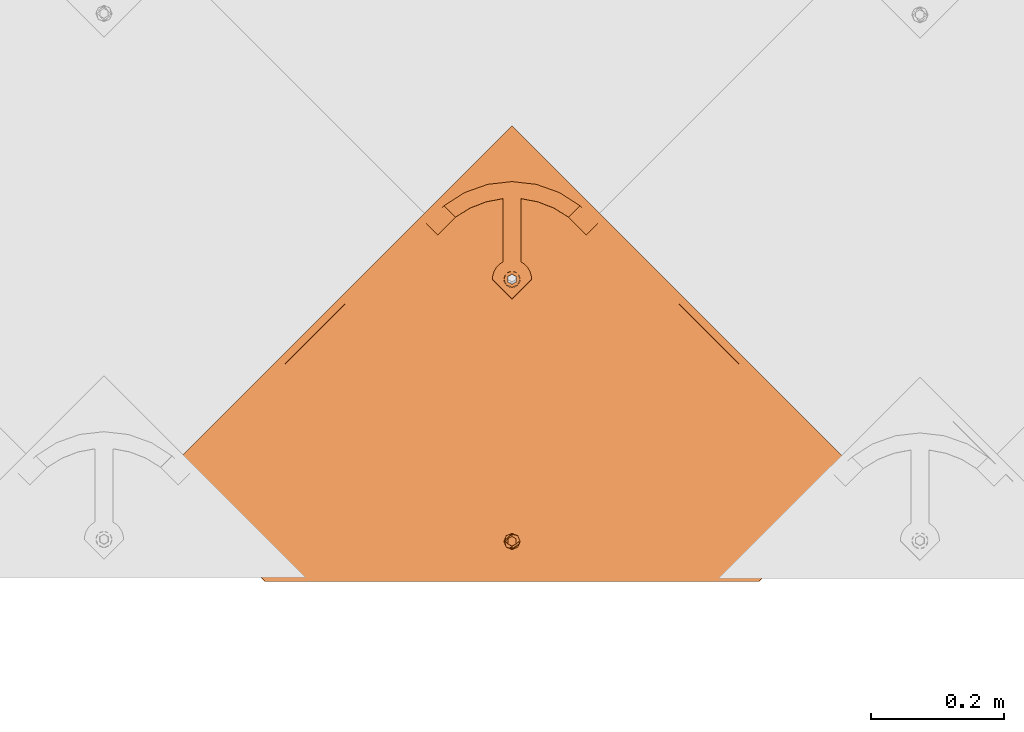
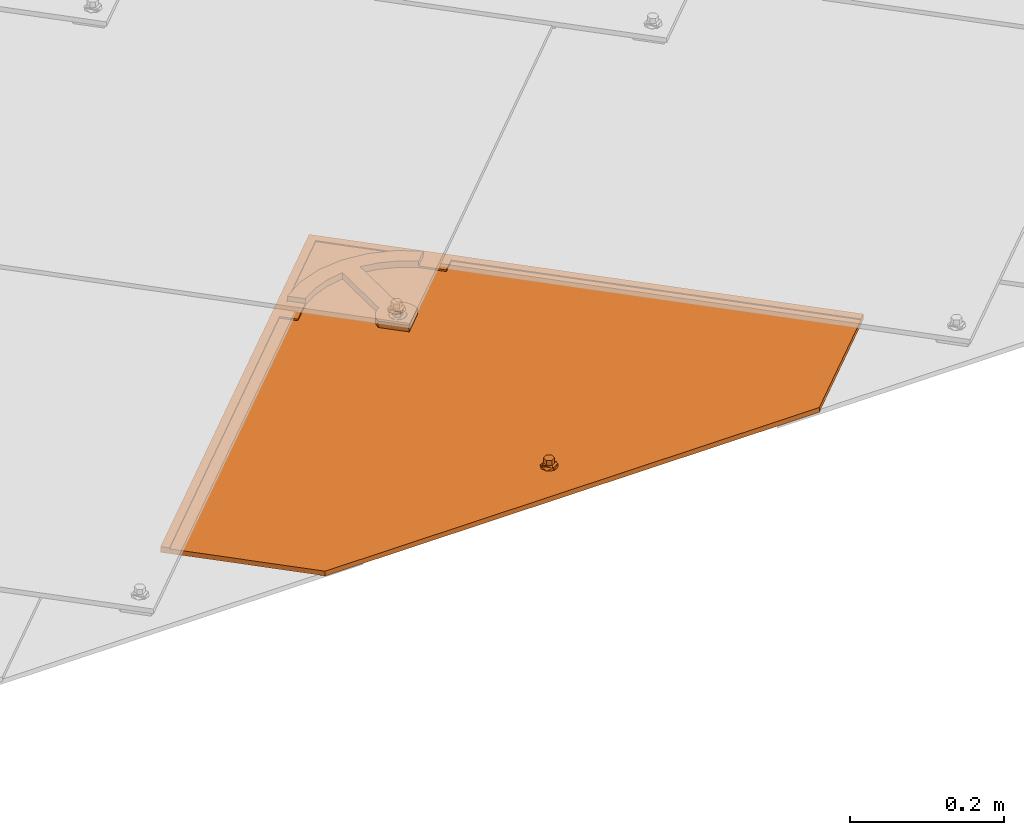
# One storey, part 81 of 151: 1 proxy.
"""IFC2X3 building model written with IfcOpenShell, lengths in millimetres."""

from ifc_helpers import new_model, entity, si_unit, converted_unit, derived_unit, direction, frame, origin, place, context, subcontext, project, spatial, faceted_brep, source, transform, mapped, material, material_list, type_object, type_shapes, element, save


model = new_model("IFC2X3")

# Units and contexts
model_context = context("Model", 3, precision=0.01, world=origin(), true_north=direction((6.12303176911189e-17, 1.0)))
body_context = subcontext(model_context, "Body", "Model", "MODEL_VIEW")
ifc_project = project(units=[si_unit("LENGTHUNIT", "METRE", prefix="MILLI"), si_unit("AREAUNIT", "SQUARE_METRE"), si_unit("VOLUMEUNIT", "CUBIC_METRE"), converted_unit("PLANEANGLEUNIT", "DEGREE", entity("IfcRatioMeasure", 0.0174532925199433), si_unit("PLANEANGLEUNIT", "RADIAN"), dimensions=[0, 0, 0, 0, 0, 0, 0]), si_unit("MASSUNIT", "GRAM", prefix="KILO"), derived_unit("MASSDENSITYUNIT", [(si_unit("MASSUNIT", "GRAM", prefix="KILO"), 1), (si_unit("LENGTHUNIT", "METRE"), -3)]), si_unit("TIMEUNIT", "SECOND"), si_unit("FREQUENCYUNIT", "HERTZ"), si_unit("THERMODYNAMICTEMPERATUREUNIT", "DEGREE_CELSIUS"), derived_unit("THERMALTRANSMITTANCEUNIT", [(si_unit("MASSUNIT", "GRAM", prefix="KILO"), 1), (si_unit("THERMODYNAMICTEMPERATUREUNIT", "KELVIN"), -1), (si_unit("TIMEUNIT", "SECOND"), -3)]), derived_unit("VOLUMETRICFLOWRATEUNIT", [(si_unit("LENGTHUNIT", "METRE"), 3), (si_unit("TIMEUNIT", "SECOND"), -1)]), si_unit("ELECTRICCURRENTUNIT", "AMPERE"), si_unit("ELECTRICVOLTAGEUNIT", "VOLT"), si_unit("POWERUNIT", "WATT"), si_unit("FORCEUNIT", "NEWTON", prefix="KILO"), si_unit("ILLUMINANCEUNIT", "LUX"), si_unit("LUMINOUSFLUXUNIT", "LUMEN"), si_unit("LUMINOUSINTENSITYUNIT", "CANDELA"), derived_unit("USERDEFINED", [(si_unit("MASSUNIT", "GRAM", prefix="KILO"), -1), (si_unit("LENGTHUNIT", "METRE"), -2), (si_unit("TIMEUNIT", "SECOND"), 3), (si_unit("LUMINOUSFLUXUNIT", "LUMEN"), 1)]), derived_unit("LINEARVELOCITYUNIT", [(si_unit("LENGTHUNIT", "METRE"), 1), (si_unit("TIMEUNIT", "SECOND"), -1)]), si_unit("PRESSUREUNIT", "PASCAL"), derived_unit("USERDEFINED", [(si_unit("LENGTHUNIT", "METRE"), -2), (si_unit("MASSUNIT", "GRAM", prefix="KILO"), 1), (si_unit("TIMEUNIT", "SECOND"), -2)])], contexts=[model_context])

# Site, building, storey
site_placement = place(None, origin())
site = spatial("IfcSite", under=ifc_project, at=site_placement, Name="Default", CompositionType="ELEMENT")
building_placement = place(site_placement, origin())
building = spatial("IfcBuilding", under=site, at=building_placement, CompositionType="ELEMENT")
storey_placement = place(building_placement, origin())
storey = spatial("IfcBuildingStorey", under=building, at=storey_placement, Name="Level 1", CompositionType="ELEMENT", Elevation=0.0)

# Proxy
ifc_material_1 = material(Name="Rubber - Sunstyle - Black")
ifc_material_2 = material(Name="Glass - Sunstyle - Tainted Black")
ifc_material_list_1 = material_list([ifc_material_1, ifc_material_2])
ifc_material_list_2 = material_list([ifc_material_1, ifc_material_2])
building_element_proxy_type = type_object("IfcBuildingElementProxyType", Name="Shingle Bottom - Black", PredefinedType="NOTDEFINED", material=ifc_material_list_2)
shared_shape = source(origin(), body_context, "Body", "Brep", [
    faceted_brep([(0.0, -1.79273515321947, -4.01619789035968), (-5.7742028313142, -5.12600528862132, -3.96037390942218), (-5.77420283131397, -4.75769619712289, 18.0314954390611), (0.0, -1.42442606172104, 17.9756714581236), (-5.77420283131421, -11.792545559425, -3.84872594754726), (-5.77420283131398, -11.4242364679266, 18.143143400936), (0.0, -15.1258156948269, -3.79290196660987), (0.0, -14.7575066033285, 18.1989673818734), (5.77420283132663, -11.7925455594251, -3.84872594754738), (5.77420283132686, -11.4242364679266, 18.1431434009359), (5.77420283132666, -5.12600528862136, -3.96037390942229), (5.77420283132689, -4.75769619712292, 18.031495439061), (-8.60370416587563, -16.6934641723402, 18.2313898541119), (0.0, -20.2567354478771, 18.2910657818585), (-12.1674751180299, -8.09096633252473, 18.0873194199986), (-8.60370416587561, 0.511531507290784, 17.9432489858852), (0.0, 4.07480278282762, 17.8835730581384), (8.60370416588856, 0.511531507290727, 17.9432489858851), (12.1674751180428, -8.09096633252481, 18.0873194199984), (8.60370416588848, -16.6934641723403, 18.2313898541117), (-11.4302228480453, -6.71737066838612, 20.4858706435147), (-9.77051349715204, -8.02009729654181, 22.3189355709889), (0.0, -0.706876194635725, 22.9603444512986), (0.0, 0.533621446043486, 22.3799978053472), (0.0, 2.69117229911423, 21.3706227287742), (-6.32324569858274, -4.35709193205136, 23.021476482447), (-6.32324569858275, -11.6575234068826, 23.1437405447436), (0.0, -18.7571148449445, 21.7298281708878), (0.0, -15.3077391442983, 23.2048725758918), (10.9851748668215, -11.808022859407, 20.3827540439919), (10.123850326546, -8.02413622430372, 22.0777687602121), (6.32324569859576, -4.3570919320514, 23.0214764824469), (6.32324569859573, -11.6575234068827, 23.1437405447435), (-6.32324569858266, -11.5234949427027, 31.146628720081), (0.0, -15.1737106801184, 31.2077607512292), (0.0, -7.8732792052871, 31.0854966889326), (-6.32324569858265, -4.22306346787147, 31.0243646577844), (6.32324569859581, -11.5234949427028, 31.1466287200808), (6.32324569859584, -4.22306346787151, 31.0243646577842), (0.0, -0.57284773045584, 30.963232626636), (0.0, -8.45927542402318, -3.90454992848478)], [[[0, 1, 2, 3]], [[1, 4, 5, 2]], [[4, 6, 7, 5]], [[6, 8, 9, 7]], [[8, 10, 11, 9]], [[10, 0, 3, 11]], [[12, 7, 13]], [[7, 12, 5]], [[14, 5, 12]], [[5, 14, 2]], [[15, 2, 14]], [[3, 2, 15]], [[15, 16, 3]], [[16, 17, 3]], [[11, 3, 17]], [[11, 17, 18]], [[9, 11, 18]], [[18, 19, 9]], [[7, 9, 19]], [[19, 13, 7]], [[15, 20, 16]], [[21, 22, 23, 24]], [[22, 21, 25]], [[20, 14, 12]], [[15, 14, 20]], [[25, 21, 26]], [[20, 24, 16]], [[12, 13, 27]], [[12, 27, 20]], [[21, 28, 26]], [[21, 27, 28]], [[20, 21, 24]], [[20, 27, 21]], [[19, 29, 13]], [[30, 23, 31]], [[30, 28, 27]], [[24, 23, 30]], [[29, 27, 13]], [[19, 18, 29]], [[29, 30, 27]], [[29, 17, 24]], [[24, 17, 16]], [[31, 32, 30]], [[23, 22, 31]], [[28, 30, 32]], [[29, 24, 30]], [[29, 18, 17]], [[33, 34, 35]], [[35, 36, 33]], [[34, 37, 35]], [[38, 35, 37]], [[35, 38, 39]], [[35, 39, 36]], [[40, 6, 4]], [[4, 1, 40]], [[1, 0, 40]], [[40, 8, 6]], [[0, 10, 40]], [[8, 40, 10]], [[22, 25, 36, 39]], [[25, 26, 33, 36]], [[26, 28, 34, 33]], [[28, 32, 37, 34]], [[32, 31, 38, 37]], [[31, 22, 39, 38]]]),
    faceted_brep([(0.0, 372.824876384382, 20.3195200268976), (0.0, 377.324245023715, 20.2441667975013), (-8.60370416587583, 376.388147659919, 20.2598440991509), (8.60370416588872, 376.388147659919, 20.2598440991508), (6.64022859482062, 381.157445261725, 20.1799702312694), (12.1674751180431, 384.990645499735, 20.1157736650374), (6.64022859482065, 388.823845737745, 20.0515770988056), (8.6037041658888, 393.59314333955, 19.9717032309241), (0.0, 392.657045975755, 19.9873805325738), (0.0, 397.156414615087, 19.9120273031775), (-8.60370416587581, 393.59314333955, 19.9717032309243), (-6.64022859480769, 388.823845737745, 20.0515770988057), (-12.1674751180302, 384.990645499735, 20.1157736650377), (-6.6402285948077, 381.157445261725, 20.1799702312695), (-6.6402282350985, 388.555922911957, 4.05382046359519), (0.0, 392.389122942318, 3.98962390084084), (-6.64022823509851, 380.889522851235, 4.18221358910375), (0.0, 377.056322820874, 4.24641015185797), (6.64022823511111, 380.889522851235, 4.18221358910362), (6.64022823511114, 388.555922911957, 4.05382046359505), (-8.603704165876, 376.12022504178, 4.26208746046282), (0.0, 372.556953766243, 4.32176338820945), (-12.1674751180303, 384.722722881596, 4.11801702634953), (-8.60370416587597, 393.325220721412, 3.97394659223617), (0.0, 396.888491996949, 3.91427066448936), (8.60370416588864, 393.325220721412, 3.97394659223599), (12.1674751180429, 384.722722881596, 4.11801702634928), (8.60370416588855, 376.12022504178, 4.26208746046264)], [[[0, 1, 2]], [[1, 0, 3]], [[3, 4, 1]], [[4, 3, 5]], [[6, 4, 5]], [[5, 7, 6]], [[7, 8, 6]], [[8, 7, 9]], [[8, 9, 10]], [[10, 11, 8]], [[12, 11, 10]], [[2, 13, 12]], [[12, 13, 11]], [[13, 2, 1]], [[8, 11, 14, 15]], [[11, 13, 16, 14]], [[13, 1, 17, 16]], [[1, 4, 18, 17]], [[4, 6, 19, 18]], [[6, 8, 15, 19]], [[20, 17, 21]], [[17, 20, 16]], [[22, 16, 20]], [[14, 16, 22]], [[23, 14, 22]], [[15, 14, 23]], [[23, 24, 15]], [[24, 25, 15]], [[19, 15, 25]], [[19, 25, 26]], [[26, 18, 19]], [[26, 27, 18]], [[17, 18, 27]], [[27, 21, 17]], [[24, 23, 10, 9]], [[10, 23, 22, 12]], [[20, 21, 0, 2]], [[20, 2, 12, 22]], [[21, 27, 3, 0]], [[3, 27, 26, 5]], [[25, 24, 9, 7]], [[25, 7, 5, 26]]]),
    faceted_brep([(518.247351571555, 79.9143812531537, 14.965257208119), (526.732038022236, 88.3990677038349, 14.8231598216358), (526.732038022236, 88.4241854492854, 16.3229495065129), (518.247351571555, 79.9394989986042, 16.4650468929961), (0.000322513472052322, 598.016093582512, 6.28834266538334), (-518.246706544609, 79.9143812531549, 14.9652572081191), (-526.73139299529, 88.3990677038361, 14.8231598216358), (0.000322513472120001, 614.983087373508, 6.00418773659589), (0.000322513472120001, 615.008205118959, 7.50397742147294), (-526.731392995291, 88.4241854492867, 16.3229495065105), (-518.246706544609, 79.9394989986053, 16.465046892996), (0.000322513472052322, 598.041211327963, 7.78813235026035)], [[[0, 1, 2, 3]], [[1, 0, 4, 5, 6, 7]], [[2, 1, 7, 8]], [[3, 2, 8, 9, 10, 11]], [[0, 3, 11, 4]], [[5, 10, 9, 6]], [[8, 7, 6, 9]], [[4, 11, 10, 5]]]),
    faceted_brep([(0.00032251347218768, 614.983087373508, 6.00418773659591), (-2.87802047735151, 396.187349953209, 9.66847193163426), (0.227808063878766, 396.596182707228, 9.6616250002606), (-5.77219193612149, 394.988712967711, 9.68854611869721), (3.3336366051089, 396.187349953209, 9.66847193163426), (6.22780806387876, 394.988712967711, 9.6885461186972), (8.71308943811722, 393.081956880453, 9.72047953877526), (10.620112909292, 390.59702396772, 9.76209598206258), (-8.25747331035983, 393.081956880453, 9.72047953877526), (-10.1644967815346, 390.59702396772, 9.76209598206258), (-11.3633018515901, 387.703258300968, 9.81055935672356), (-526.731392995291, 88.3990677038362, 14.8231598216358), (11.8189179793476, 387.703258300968, 9.81055935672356), (526.732038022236, 88.3990677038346, 14.8231598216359), (-11.7721919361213, 384.597865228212, 9.86256696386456), (-11.3633018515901, 381.492472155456, 9.91457457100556), (-10.1644967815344, 378.598706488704, 9.96303794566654), (-370.355016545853, -67.9334607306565, 17.4413406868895), (-8.25747331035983, 376.113773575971, 10.0046543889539), (-5.65685424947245, -2.29422365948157, 16.3420467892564), (-6.92820323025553, -3.95084560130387, 16.3697910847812), (-7.72740661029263, -5.88002271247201, 16.4021000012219), (-8.0, -7.95028476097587, 16.4367717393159), (-7.72740661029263, -10.0205468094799, 16.4714434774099), (-6.9282032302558, -11.9497239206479, 16.5037523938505), (-5.65685424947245, -13.6063458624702, 16.5314966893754), (-4.0, -14.8775165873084, 16.5527856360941), (-2.07055236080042, -15.676607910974, 16.5661684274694), (0.0, -15.9491630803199, 16.5707330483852), (370.355661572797, -67.9334607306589, 17.4413406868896), (10.620112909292, 378.598706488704, 9.96303794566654), (8.71308943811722, 376.11377357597, 10.0046543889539), (5.65685424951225, -2.29422365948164, 16.3420467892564), (6.92820323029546, -3.9508456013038, 16.3697910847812), (7.72740661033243, -5.88002271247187, 16.4021000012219), (8.0, -7.9502847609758, 16.4367717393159), (7.72740661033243, -10.0205468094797, 16.4714434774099), (6.92820323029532, -11.9497239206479, 16.5037523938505), (5.65685424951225, -13.6063458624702, 16.5314966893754), (4.0, -14.8775165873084, 16.5527856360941), (2.07055236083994, -15.676607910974, 16.5661684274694), (-5.77219193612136, 374.207017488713, 10.0365878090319), (-4.0, -1.02305293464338, 16.3207578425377), (-2.87802047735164, 373.008380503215, 10.0566619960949), (-2.07055236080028, -0.223961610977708, 16.3073750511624), (0.227808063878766, 372.599547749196, 10.0635089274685), (0.0, 0.0485935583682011, 16.3028104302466), (2.07055236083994, -0.223961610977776, 16.3073750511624), (3.3336366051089, 373.008380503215, 10.0566619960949), (4.0, -1.02305293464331, 16.3207578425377), (6.22780806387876, 374.207017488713, 10.0365878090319), (12.2278080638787, 384.597865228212, 9.86256696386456), (11.8189179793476, 381.492472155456, 9.91457457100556), (-370.355016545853, -68.059049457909, 9.94239226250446), (-6.92820323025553, -4.07643432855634, 8.87084266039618), (-7.72740661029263, -6.00561143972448, 8.90315157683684), (-8.0, -8.07587348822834, 8.93782331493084), (-7.72740661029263, -10.1461355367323, 8.97249505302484), (-6.9282032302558, -12.0753126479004, 9.00480396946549), (-5.65685424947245, -13.7319345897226, 9.03254826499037), (-5.65685424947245, -2.41981238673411, 8.8430983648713), (-8.25747331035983, 375.988184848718, 2.50570596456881), (-4.0, -15.0031053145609, 9.05383721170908), (-2.07055236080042, -15.8021966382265, 9.06722000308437), (0.0, -16.0747518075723, 9.07178462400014), (370.355661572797, -68.0590494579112, 9.9423922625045), (-10.1644967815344, 378.473117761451, 2.46408952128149), (-526.731392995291, 88.2734789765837, 7.32421139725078), (-11.3633018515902, 381.366883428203, 2.41562614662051), (-11.7721919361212, 384.472276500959, 2.36361853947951), (-11.3633018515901, 387.577669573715, 2.3116109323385), (0.00032251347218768, 614.857498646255, -1.49476068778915), (-10.1644967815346, 390.471435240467, 2.26314755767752), (-8.25747331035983, 392.956368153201, 2.22153111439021), (-5.77219193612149, 394.863124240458, 2.18959769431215), (-2.87802047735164, 396.061761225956, 2.16952350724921), (0.227808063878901, 396.470593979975, 2.16267657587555), (3.3336366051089, 396.061761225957, 2.1695235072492), (6.22780806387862, 394.863124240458, 2.18959769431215), (8.71308943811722, 392.956368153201, 2.2215311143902), (10.620112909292, 390.471435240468, 2.26314755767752), (11.8189179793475, 387.577669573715, 2.31161093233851), (526.732038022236, 88.2734789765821, 7.32421139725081), (12.2278080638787, 384.472276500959, 2.3636185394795), (10.620112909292, 378.473117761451, 2.46408952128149), (11.8189179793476, 381.366883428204, 2.41562614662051), (-5.77219193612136, 374.08142876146, 2.53763938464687), (-4.0, -1.14864166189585, 8.8218094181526), (-2.87802047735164, 372.882791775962, 2.55771357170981), (-2.07055236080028, -0.349550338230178, 8.8084266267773), (0.227808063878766, 372.473959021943, 2.56456050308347), (0.0, -0.0769951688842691, 8.80386200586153), (2.07055236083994, -0.349550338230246, 8.8084266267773), (3.3336366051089, 372.882791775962, 2.55771357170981), (4.0, -1.14864166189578, 8.8218094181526), (6.22780806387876, 374.081428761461, 2.53763938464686), (5.65685424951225, -2.41981238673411, 8.8430983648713), (8.71308943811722, 375.988184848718, 2.50570596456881), (6.92820323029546, -4.07643432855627, 8.87084266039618), (7.72740661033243, -6.00561143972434, 8.90315157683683), (8.0, -8.07587348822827, 8.93782331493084), (7.72740661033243, -10.1461355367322, 8.97249505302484), (6.92820323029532, -12.0753126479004, 9.00480396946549), (5.65685424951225, -13.7319345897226, 9.03254826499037), (4.0, -15.0031053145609, 9.05383721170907), (2.07055236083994, -15.8021966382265, 9.06722000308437)], [[[0, 1, 2]], [[1, 0, 3]], [[0, 2, 4]], [[4, 5, 0]], [[5, 6, 0]], [[0, 6, 7]], [[8, 3, 0]], [[9, 8, 0]], [[9, 0, 10]], [[10, 0, 11]], [[12, 0, 7]], [[12, 13, 0]], [[11, 14, 10]], [[14, 11, 15]], [[16, 15, 11]], [[11, 17, 16]], [[16, 17, 18]], [[19, 18, 17]], [[19, 17, 20]], [[20, 17, 21]], [[22, 21, 17]], [[22, 17, 23]], [[24, 23, 17]], [[17, 25, 24]], [[26, 25, 17]], [[27, 26, 17]], [[17, 28, 27]], [[28, 17, 29]], [[29, 13, 30]], [[29, 30, 31]], [[29, 31, 32]], [[32, 33, 29]], [[33, 34, 29]], [[35, 29, 34]], [[29, 35, 36]], [[36, 37, 29]], [[29, 37, 38]], [[38, 39, 29]], [[40, 28, 29]], [[39, 40, 29]], [[41, 18, 19]], [[42, 41, 19]], [[42, 43, 41]], [[44, 43, 42]], [[44, 45, 43]], [[46, 45, 44]], [[47, 45, 46]], [[48, 45, 47]], [[49, 48, 47]], [[49, 50, 48]], [[32, 50, 49]], [[32, 31, 50]], [[12, 51, 13]], [[52, 13, 51]], [[13, 52, 30]], [[53, 54, 55]], [[53, 55, 56]], [[56, 57, 53]], [[57, 58, 53]], [[53, 58, 59]], [[60, 54, 53]], [[61, 60, 53]], [[59, 62, 53]], [[62, 63, 53]], [[63, 64, 53]], [[53, 64, 65]], [[66, 61, 53]], [[66, 53, 67]], [[68, 66, 67]], [[69, 68, 67]], [[69, 67, 70]], [[67, 71, 70]], [[72, 70, 71]], [[73, 72, 71]], [[71, 74, 73]], [[74, 71, 75]], [[75, 71, 76]], [[77, 76, 71]], [[77, 71, 78]], [[79, 78, 71]], [[71, 80, 79]], [[80, 71, 81]], [[71, 82, 81]], [[83, 81, 82]], [[84, 82, 65]], [[85, 82, 84]], [[82, 85, 83]], [[86, 60, 61]], [[86, 87, 60]], [[88, 87, 86]], [[89, 87, 88]], [[90, 89, 88]], [[90, 91, 89]], [[92, 91, 90]], [[92, 90, 93]], [[94, 92, 93]], [[93, 95, 94]], [[94, 95, 96]], [[97, 96, 95]], [[96, 97, 65]], [[84, 65, 97]], [[98, 96, 65]], [[99, 98, 65]], [[99, 65, 100]], [[101, 100, 65]], [[102, 101, 65]], [[103, 102, 65]], [[104, 103, 65]], [[105, 104, 65]], [[65, 64, 105]], [[11, 0, 71, 67]], [[17, 11, 67, 53]], [[13, 29, 65, 82]], [[0, 13, 82, 71]], [[22, 56, 55, 21]], [[21, 55, 54, 20]], [[42, 19, 60, 87]], [[60, 19, 20, 54]], [[44, 42, 87, 89]], [[44, 89, 91, 46]], [[46, 91, 92, 47]], [[47, 92, 94, 49]], [[33, 32, 96, 98]], [[96, 32, 49, 94]], [[34, 33, 98, 99]], [[34, 99, 100, 35]], [[35, 100, 101, 36]], [[36, 101, 102, 37]], [[39, 38, 103, 104]], [[103, 38, 37, 102]], [[40, 39, 104, 105]], [[40, 105, 64, 28]], [[28, 64, 63, 27]], [[27, 63, 62, 26]], [[24, 25, 59, 58]], [[59, 25, 26, 62]], [[23, 24, 58, 57]], [[23, 57, 56, 22]], [[14, 69, 70, 10]], [[10, 70, 72, 9]], [[3, 8, 73, 74]], [[73, 8, 9, 72]], [[1, 3, 74, 75]], [[1, 75, 76, 2]], [[2, 76, 77, 4]], [[4, 77, 78, 5]], [[7, 6, 79, 80]], [[79, 6, 5, 78]], [[12, 7, 80, 81]], [[12, 81, 83, 51]], [[51, 83, 85, 52]], [[52, 85, 84, 30]], [[50, 31, 97, 95]], [[97, 31, 30, 84]], [[48, 50, 95, 93]], [[48, 93, 90, 45]], [[45, 90, 88, 43]], [[43, 88, 86, 41]], [[16, 18, 61, 66]], [[41, 86, 61, 18]], [[68, 15, 16, 66]], [[15, 68, 69, 14]], [[29, 17, 53, 65]]]),
    faceted_brep([(-111.269043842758, 451.472531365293, 11.2429332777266), (-84.9443960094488, 477.793488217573, 10.8021227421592), (-102.027571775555, 494.874268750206, 10.5160621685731), (-108.279973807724, 489.512620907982, 10.6058564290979), (-114.2509690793, 483.839345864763, 10.7008696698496), (-128.946713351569, 469.147722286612, 10.9469178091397), (128.946713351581, 469.147722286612, 10.9469178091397), (114.250969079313, 483.839345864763, 10.7008696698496), (108.279973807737, 489.512620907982, 10.6058564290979), (102.027571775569, 494.874268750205, 10.5160621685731), (84.9431983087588, 477.794685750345, 10.802102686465), (111.269043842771, 451.472531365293, 11.2429332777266), (-8.48528137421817, 393.302959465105, 19.7181805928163), (-18.7041061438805, 407.484939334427, 19.4806677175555), (-23.2046504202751, 402.851933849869, 19.5582590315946), (-10.3923048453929, 390.818026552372, 19.7597970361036), (-6.0, 395.209715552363, 19.6862471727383), (-13.2999999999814, 411.02298750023, 19.4214142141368), (-3.10582854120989, 396.408352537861, 19.6661729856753), (0.0, 396.81718529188, 19.6593260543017), (13.3000000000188, 411.022987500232, 19.4214142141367), (3.10582854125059, 396.408352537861, 19.6661729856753), (6.0, 395.209715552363, 19.6862471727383), (18.7041061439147, 407.484939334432, 19.4806677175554), (8.48528137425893, 393.302959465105, 19.7181805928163), (23.2046504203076, 402.85193384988, 19.5582590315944), (10.3923048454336, 390.818026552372, 19.7597970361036), (26.5842195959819, 397.347783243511, 19.6504398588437), (11.5911099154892, 387.92426088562, 19.8082604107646), (28.6795527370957, 391.238383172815, 19.752757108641), (12.0, 384.818867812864, 19.8602680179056), (29.3894280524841, 384.818867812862, 19.8602680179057), (11.5911099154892, 381.713474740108, 19.9122756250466), (10.3923048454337, 378.819709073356, 19.9607389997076), (8.48528137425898, 376.334776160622, 20.0023554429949), (0.0, 355.433560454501, 20.3523987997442), (6.0, 374.428020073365, 20.034288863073), (3.10582854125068, 373.229383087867, 20.0543630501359), (0.0, 372.820550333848, 20.0612099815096), (-3.10582854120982, 373.229383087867, 20.0543630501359), (-6.0, 374.428020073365, 20.034288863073), (-8.48528137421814, 376.334776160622, 20.0023554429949), (-29.3894280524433, 384.818867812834, 19.8602680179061), (-10.3923048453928, 378.819709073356, 19.9607389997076), (-11.5911099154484, 381.713474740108, 19.9122756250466), (-12.0, 384.818867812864, 19.8602680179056), (-28.67955273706, 391.238383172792, 19.7527571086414), (-11.5911099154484, 387.92426088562, 19.8082604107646), (-26.5842195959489, 397.347783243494, 19.650439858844), (-13.2999999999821, 505.810987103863, 17.833951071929), (13.3000000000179, 505.810987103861, 17.833951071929), (0.0, 531.282600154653, 17.4073649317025), (36.4908407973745, 527.108634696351, 17.4772684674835), (38.7697427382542, 500.996106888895, 17.9145883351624), (71.096085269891, 514.802420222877, 17.6833669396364), (62.9243331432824, 491.592473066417, 18.0720758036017), (102.027571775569, 494.999857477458, 18.0150105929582), (84.9443960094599, 477.919076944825, 18.3010711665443), (-36.4908407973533, 527.108634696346, 17.4772684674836), (-38.7697427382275, 500.996106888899, 17.9145883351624), (-71.0960852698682, 514.802420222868, 17.6833669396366), (-62.9243331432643, 491.592473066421, 18.0720758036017), (-102.027571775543, 494.999857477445, 18.0150105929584), (-84.9443960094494, 477.919076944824, 18.3010711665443), (0.0, 355.266108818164, 10.3538009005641), (0.0, 372.653098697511, 10.0626120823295), (3.10582854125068, 373.06193145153, 10.0557651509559), (-3.10582854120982, 373.06193145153, 10.0557651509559), (6.0, 374.260568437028, 10.0356909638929), (8.48528137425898, 376.167324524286, 10.0037575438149), (29.3894280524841, 384.651416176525, 9.86167011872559), (-6.0, 374.260568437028, 10.0356909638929), (-8.48528137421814, 376.167324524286, 10.0037575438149), (-29.3894280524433, 384.651416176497, 9.86167011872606), (-10.3923048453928, 378.652257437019, 9.96214110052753), (-11.5911099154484, 381.546023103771, 9.91367772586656), (-12.0, 384.651416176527, 9.86167011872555), (-28.67955273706, 391.070931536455, 9.75415920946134), (-11.5911099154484, 387.756809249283, 9.80966251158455), (-26.5842195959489, 397.180331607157, 9.65184195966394), (-10.3923048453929, 390.650574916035, 9.76119913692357), (-23.2046504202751, 402.684482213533, 9.5596611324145), (-8.48528137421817, 393.135507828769, 9.71958269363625), (-18.7041061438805, 407.31748769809, 9.48206981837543), (-6.0, 395.042263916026, 9.6876492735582), (-13.2999999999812, 410.855535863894, 9.4228163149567), (-3.10582854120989, 396.240900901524, 9.66757508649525), (0.0, 396.649733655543, 9.66072815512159), (13.3000000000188, 410.855535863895, 9.42281631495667), (-13.2999999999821, 505.643535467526, 7.83535317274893), (13.3000000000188, 505.643535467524, 7.83535317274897), (0.0, 531.115148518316, 7.4087670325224), (-36.4908407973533, 526.94118306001, 7.47867056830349), (-38.7697427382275, 500.828655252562, 7.91599043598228), (-71.0960852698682, 514.634968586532, 7.68476904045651), (-62.9243331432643, 491.425021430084, 8.07347790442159), (-102.027571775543, 494.832405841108, 8.01641269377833), (-84.9431983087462, 477.752822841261, 8.30245321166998), (-108.279973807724, 489.470757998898, 8.10620695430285), (-114.2509690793, 483.79748295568, 8.2012201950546), (-111.269043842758, 451.430668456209, 8.74328380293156), (-128.946713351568, 469.105859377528, 8.44726833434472), (36.4908407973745, 526.941183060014, 7.47867056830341), (38.7697427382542, 500.828655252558, 7.91599043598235), (71.096085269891, 514.634968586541, 7.68476904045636), (62.9243331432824, 491.425021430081, 8.07347790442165), (102.027571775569, 494.832405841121, 8.01641269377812), (84.9443960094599, 477.751625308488, 8.30247326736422), (108.279973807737, 489.470757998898, 8.10620695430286), (114.250969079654, 483.797482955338, 8.20122019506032), (111.269043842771, 451.430668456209, 8.74328380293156), (128.946713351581, 469.105859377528, 8.44726833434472), (3.10582854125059, 396.240900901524, 9.66757508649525), (6.0, 395.042263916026, 9.6876492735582), (18.7041061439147, 407.317487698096, 9.48206981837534), (8.48528137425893, 393.135507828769, 9.71958269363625), (23.2046504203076, 402.684482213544, 9.55966113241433), (10.3923048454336, 390.650574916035, 9.76119913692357), (26.5842195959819, 397.180331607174, 9.65184195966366), (11.5911099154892, 387.756809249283, 9.80966251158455), (28.6795527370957, 391.070931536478, 9.75415920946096), (12.0, 384.651416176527, 9.86167011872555), (11.5911099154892, 381.546023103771, 9.91367772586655), (10.3923048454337, 378.652257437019, 9.96214110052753)], [[[0, 1, 2, 3, 4, 5]], [[6, 7, 8, 9, 10, 11]], [[12, 13, 14]], [[15, 12, 14]], [[16, 13, 12]], [[13, 16, 17]], [[17, 16, 18]], [[18, 19, 17]], [[20, 17, 19]], [[19, 21, 20]], [[22, 20, 21]], [[22, 23, 20]], [[22, 24, 23]], [[25, 23, 24]], [[26, 25, 24]], [[25, 26, 27]], [[26, 28, 27]], [[29, 27, 28]], [[28, 30, 29]], [[31, 29, 30]], [[30, 32, 31]], [[32, 33, 31]], [[31, 33, 34]], [[34, 35, 31]], [[34, 36, 35]], [[37, 35, 36]], [[38, 35, 37]], [[35, 38, 39]], [[40, 35, 39]], [[40, 41, 35]], [[42, 35, 41]], [[43, 42, 41]], [[43, 44, 42]], [[44, 45, 42]], [[45, 46, 42]], [[46, 45, 47]], [[48, 46, 47]], [[47, 15, 48]], [[48, 15, 14]], [[20, 49, 17]], [[49, 20, 50]], [[51, 49, 50]], [[50, 52, 51]], [[53, 52, 50]], [[52, 53, 54]], [[55, 54, 53]], [[54, 55, 56]], [[55, 57, 56]], [[58, 49, 51]], [[49, 58, 59]], [[60, 59, 58]], [[60, 61, 59]], [[61, 60, 62]], [[61, 62, 63]], [[64, 65, 66]], [[65, 64, 67]], [[64, 66, 68]], [[68, 69, 64]], [[64, 69, 70]], [[71, 67, 64]], [[71, 64, 72]], [[72, 64, 73]], [[73, 74, 72]], [[74, 73, 75]], [[76, 75, 73]], [[77, 76, 73]], [[76, 77, 78]], [[78, 77, 79]], [[80, 78, 79]], [[81, 80, 79]], [[82, 80, 81]], [[81, 83, 82]], [[83, 84, 82]], [[84, 83, 85]], [[85, 86, 84]], [[87, 86, 85]], [[87, 85, 88]], [[88, 85, 89]], [[88, 89, 90]], [[89, 91, 90]], [[91, 89, 92]], [[93, 92, 89]], [[94, 92, 93]], [[93, 95, 94]], [[95, 96, 94]], [[97, 96, 95]], [[98, 96, 97]], [[99, 98, 97]], [[97, 100, 99]], [[101, 99, 100]], [[102, 90, 91]], [[90, 102, 103]], [[104, 103, 102]], [[103, 104, 105]], [[105, 104, 106]], [[107, 105, 106]], [[107, 106, 108]], [[109, 107, 108]], [[110, 107, 109]], [[111, 110, 109]], [[87, 88, 112]], [[113, 112, 88]], [[114, 113, 88]], [[115, 113, 114]], [[115, 114, 116]], [[116, 117, 115]], [[116, 118, 117]], [[117, 118, 119]], [[119, 118, 120]], [[121, 119, 120]], [[120, 70, 121]], [[122, 121, 70]], [[70, 69, 123]], [[123, 122, 70]], [[17, 49, 89, 85]], [[13, 17, 85, 83]], [[14, 13, 83, 81]], [[81, 79, 48, 14]], [[46, 48, 79, 77]], [[42, 46, 77, 73]], [[35, 42, 73, 64]], [[31, 35, 64, 70]], [[29, 31, 70, 120]], [[27, 29, 120, 118]], [[118, 116, 25, 27]], [[23, 25, 116, 114]], [[20, 23, 114, 88]], [[50, 20, 88, 90]], [[9, 106, 104, 54, 56]], [[52, 54, 104, 102]], [[51, 52, 102, 91]], [[58, 51, 91, 92]], [[94, 96, 2, 62, 60]], [[60, 58, 92, 94]], [[45, 76, 78, 47]], [[47, 78, 80, 15]], [[16, 12, 82, 84]], [[80, 82, 12, 15]], [[18, 16, 84, 86]], [[87, 19, 18, 86]], [[21, 112, 113, 22]], [[22, 113, 115, 24]], [[28, 26, 117, 119]], [[115, 117, 26, 24]], [[30, 28, 119, 121]], [[21, 19, 87, 112]], [[30, 121, 122, 32]], [[32, 122, 123, 33]], [[36, 34, 69, 68]], [[123, 69, 34, 33]], [[37, 36, 68, 66]], [[65, 38, 37, 66]], [[39, 67, 71, 40]], [[40, 71, 72, 41]], [[44, 43, 74, 75]], [[72, 74, 43, 41]], [[45, 44, 75, 76]], [[39, 38, 65, 67]], [[7, 6, 111, 109]], [[6, 11, 110, 111]], [[7, 109, 108, 8]], [[108, 106, 9, 8]], [[11, 10, 107, 110]], [[0, 5, 101, 100]], [[1, 0, 100, 97]], [[2, 96, 98, 3]], [[98, 99, 4, 3]], [[5, 4, 99, 101]], [[63, 62, 2, 1]], [[56, 57, 10]], [[10, 9, 56]], [[1, 95, 61, 63]], [[1, 97, 95]], [[93, 89, 49, 59]], [[95, 93, 59, 61]], [[90, 103, 53, 50]], [[103, 105, 55, 53]], [[10, 57, 55]], [[107, 10, 105]], [[55, 105, 10]]]),
])
type_shapes(building_element_proxy_type, [shared_shape])
proxy_placement = place(storey_placement, frame((-17152.8622323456, 14586.670330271, 0.0)))
element("IfcBuildingElementProxy", 1, at=proxy_placement, inside=storey, type_object=building_element_proxy_type, material=ifc_material_list_1, Name="Roofing_Panels_SunStyle_Tile_Shingle-Bottom:Shingle Bottom - Black", ObjectType="Roofing_Panels_SunStyle_Tile_Shingle-Bottom:Shingle Bottom - Black", context=body_context, shape_type="MappedRepresentation", body=[
    mapped(shared_shape, transform((0.0, 0.0, 0.0), scale=1.0)),
])

save(model, "model.ifc")
